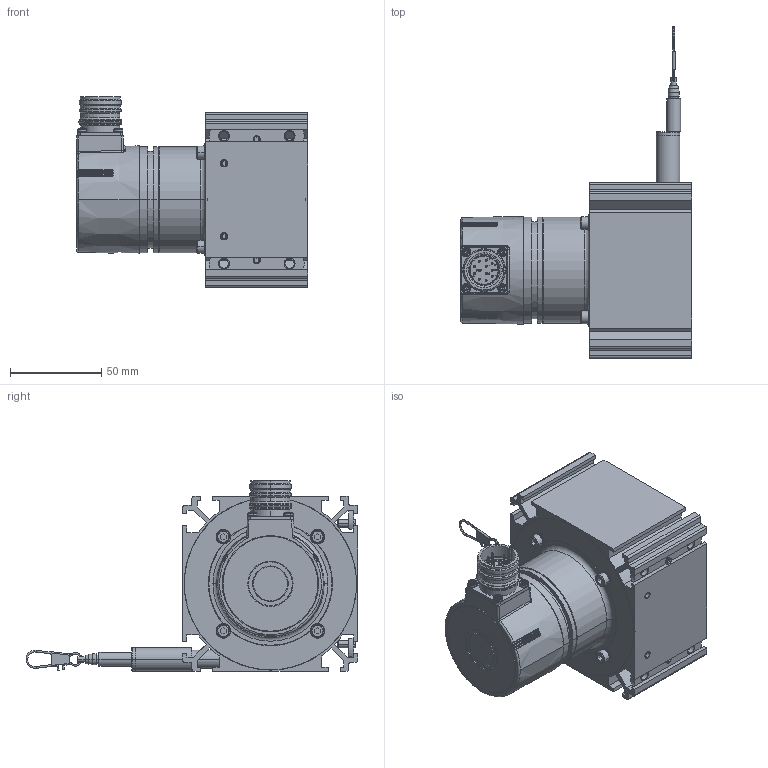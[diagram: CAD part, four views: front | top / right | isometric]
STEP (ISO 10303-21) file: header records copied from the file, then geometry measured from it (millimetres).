
FILE_DESCRIPTION((''),'2;1');
FILE_NAME('WDS-3000-P96-SR-SSI_02_ASM','2024-05-21T14:16:35',('15000597'),(''),'CREO PARAMETRIC BY PTC INC, 2022164','CREO PARAMETRIC BY PTC INC, 2022164','');
FILE_SCHEMA(('AUTOMOTIVE_DESIGN { 1 0 10303 214 1 1 1 1 }'));
Products named in the file (21): TELESO_SENZORU_3M_P96_CER_ELOX_AF0; ADAPTER_3M_P96_AF0; SROUB_ISO4026_STAV_HEX_M4X5_AF0; SROUB_ISO4026_STAV_HEX_M4X5_AF1; SROUB_ISO4026_STAV_HEX_M4X5_AF2; SROUB_ISO4026_STAV_HEX_M4X5_AF3; VIKO_SENZORU_P96_CERNY_ELOX; TRUBKA_PRUCHODKY_2I5M_P96_AF0; PL_VYOSENA_P96_P115; PRIRUBA_SYNCHRO_P96_P200; PODLOZKA_M4_VEJIROVA; SROUB_ISO4762_VALC_HEX_M4X6; LANKO_7X7_0I63_0I8_AF0; GP_7I5X2I0X18_EXT_EPDM60; KARABINKA_SPECIALNI; UPEVNOVACI_MATICE_P96_M_IVO_AF0; UPEVNOVACI_MATICE_P96_M_IVO_AF1; SROUB_ISO4029_STAV_HEX_M4X10_AF0; SROUB_ISO4029_STAV_HEX_M4X10_AF1; BAU_SYNCHRO_SSI_EN580EIML-SU06; WDS-3000-P96-SR-SSI_02_ASM
Assembly tree (26 placements, depth 2):
  WDS-3000-P96-SR-SSI_02_ASM
    TELESO_SENZORU_3M_P96_CER_ELOX_AF0
    ADAPTER_3M_P96_AF0
    SROUB_ISO4026_STAV_HEX_M4X5_AF0
    SROUB_ISO4026_STAV_HEX_M4X5_AF1
    SROUB_ISO4026_STAV_HEX_M4X5_AF2
    SROUB_ISO4026_STAV_HEX_M4X5_AF3
    VIKO_SENZORU_P96_CERNY_ELOX
    TRUBKA_PRUCHODKY_2I5M_P96_AF0
    PL_VYOSENA_P96_P115
    PRIRUBA_SYNCHRO_P96_P200
    PODLOZKA_M4_VEJIROVA  x4
    SROUB_ISO4762_VALC_HEX_M4X6  x4
    LANKO_7X7_0I63_0I8_AF0
    GP_7I5X2I0X18_EXT_EPDM60
    KARABINKA_SPECIALNI
    UPEVNOVACI_MATICE_P96_M_IVO_AF0
    UPEVNOVACI_MATICE_P96_M_IVO_AF1
    SROUB_ISO4029_STAV_HEX_M4X10_AF0
    SROUB_ISO4029_STAV_HEX_M4X10_AF1
    BAU_SYNCHRO_SSI_EN580EIML-SU06
Bounding box: 126.95 x 181.99 x 104.5 mm (x, y, z)
Volume: 162101.8 mm3; surface area: 155555.2 mm2
Topology: 25 solids, 50 shells, 2367 faces, 6205 edges, 3996 vertices
Faces by surface type: plane 973, cylinder 613, bspline 291, cone 233, torus 167, extrusion 50, sphere 24, revolution 16
Entity records: 109606 total; most frequent: CARTESIAN_POINT 42972, ORIENTED_EDGE 10740, DIRECTION 9617, EDGE_CURVE 5417, AXIS2_PLACEMENT_3D 3634, VERTEX_POINT 3510, PRESENTATION_STYLE_ASSIGNMENT 3070, STYLED_ITEM 3066
